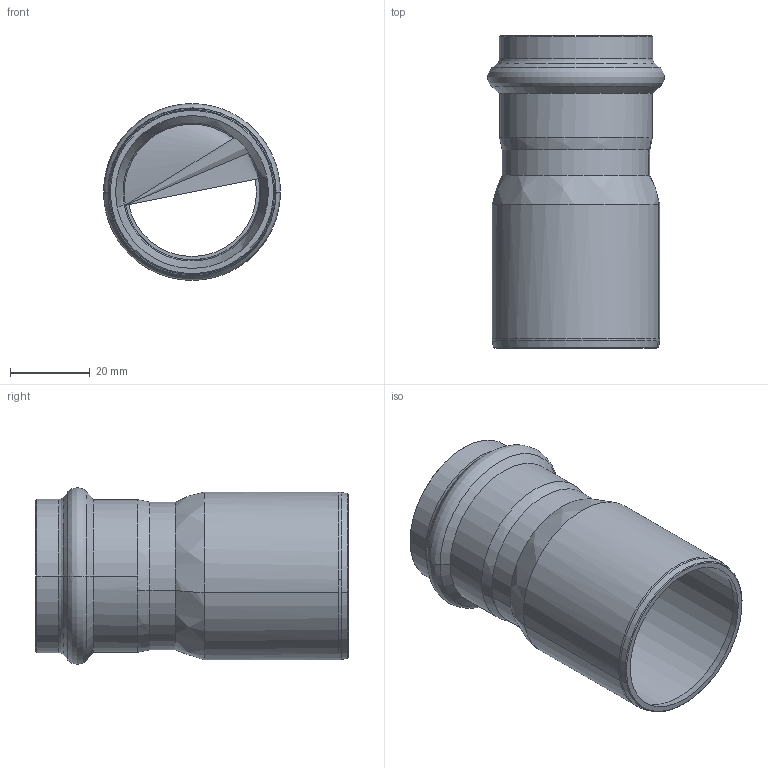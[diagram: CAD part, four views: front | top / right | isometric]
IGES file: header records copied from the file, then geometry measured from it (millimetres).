
Start section: Elysium IGES Interface
Global section: file name: C:\Users\Wallenburg\Desktop\3d modellen sudo\S-Pr VP\SP6243V\6243VW4235.igs; native system: CoCreate Modeling 17.00A  17-Jun-2010; preprocessor: CoCreate IGES_3D V2.2; author: Unknown; organization: Unknown; date: 20130124.094045; units: millimetre
Bounding box: 44.3 x 78.18 x 44.27 mm (x, y, z)
Volume: 17387.9 mm3; surface area: 19909.3 mm2
Topology: 1 solids, 1 shells, 58 faces, 133 edges, 76 vertices
Faces by surface type: bspline 58
